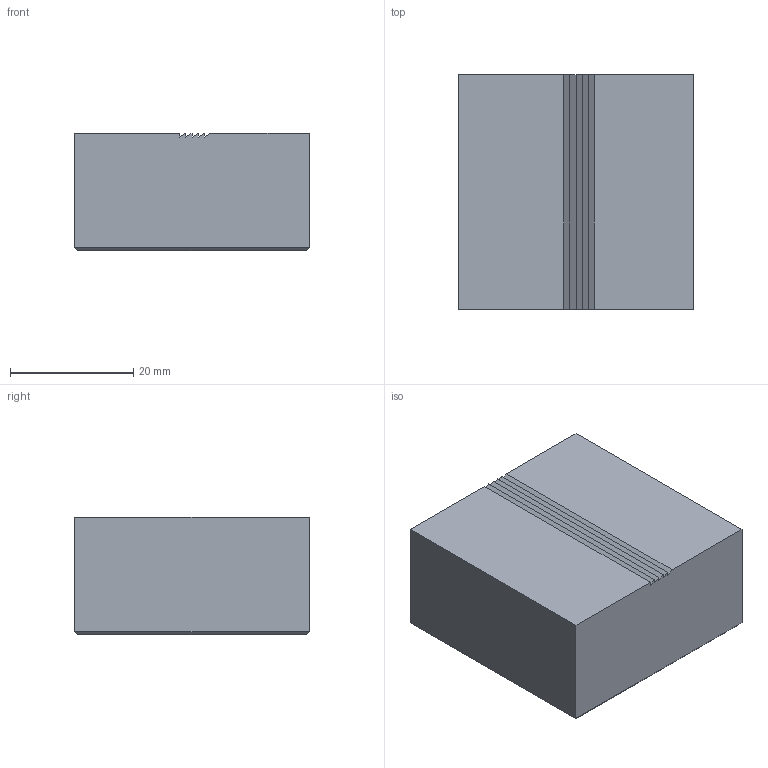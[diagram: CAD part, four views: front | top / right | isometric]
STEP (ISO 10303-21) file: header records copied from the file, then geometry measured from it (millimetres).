
FILE_DESCRIPTION((''),'2;1');
FILE_NAME('3532W010.stp','2001-04-09T10:32:05',(''),(''),'AutoCAD STEP 2000i','AutoCAD 2000i',', , ');
FILE_SCHEMA(('CONFIG_CONTROL_DESIGN'));
Length unit declared in the file: millimetre
Products named in the file (2): 3532D-MDTA; 3532D-MDT
Assembly tree (1 placements, depth 2):
  3532D-MDTA
    3532D-MDT
Bounding box: 38.1 x 38.1 x 19.05 mm (x, y, z)
Volume: 27577.1 mm3; surface area: 5904.3 mm2
Topology: 1 solids, 1 shells, 21 faces, 53 edges, 34 vertices
Faces by surface type: plane 21
Entity records: 724 total; most frequent: CARTESIAN_POINT 110, ORIENTED_EDGE 106, DIRECTION 99, VECTOR 53, LINE 53, EDGE_CURVE 53, VERTEX_POINT 34, AXIS2_PLACEMENT_3D 23
